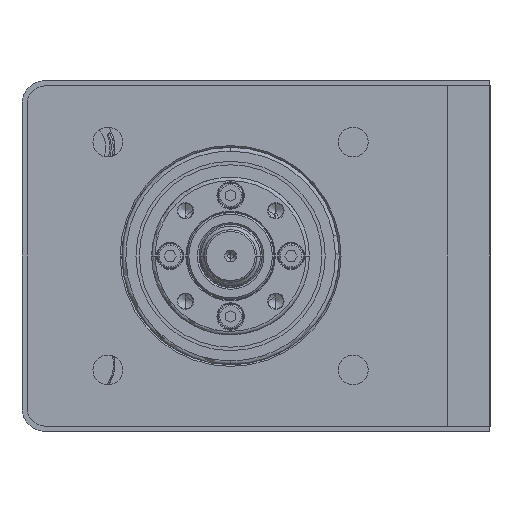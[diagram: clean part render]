
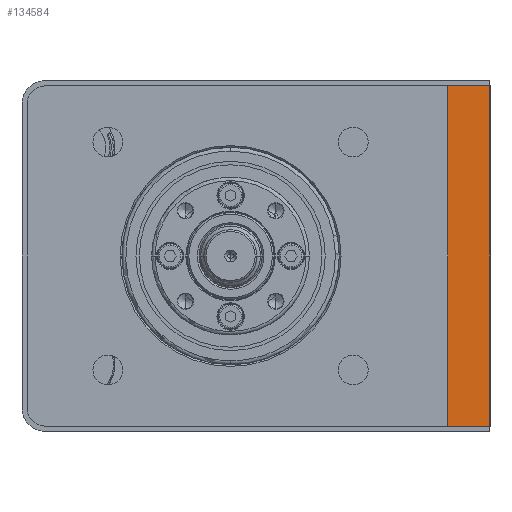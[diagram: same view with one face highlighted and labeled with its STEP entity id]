
A CAD part, left-side view. The second image highlights one B-rep face of the part: STEP entity #134584.
In plain terms, the highlighted planar face has unit normal (-1, 0, 0).
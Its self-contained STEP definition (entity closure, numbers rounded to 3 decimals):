
#27083 = EDGE_CURVE ( 'NONE', #184579, #88685, #107692, .T. ) ;
#29554 = EDGE_CURVE ( 'NONE', #184579, #115915, #208527, .T. ) ;
#37113 = CARTESIAN_POINT ( 'NONE',  ( -168.897, -21.483, 48.5 ) ) ;
#44366 = LINE ( 'NONE', #218797, #64618 ) ;
#51970 = DIRECTION ( 'NONE',  ( 1., 0., 0. ) ) ;
#53503 = CARTESIAN_POINT ( 'NONE',  ( -168.897, -9.483, -48.5 ) ) ;
#58561 = DIRECTION ( 'NONE',  ( 0., 0., -1. ) ) ;
#64618 = VECTOR ( 'NONE', #216421, 1000. ) ;
#83498 = ORIENTED_EDGE ( 'NONE', *, *, #180605, .T. ) ;
#88685 = VERTEX_POINT ( 'NONE', #146423 ) ;
#91485 = DIRECTION ( 'NONE',  ( 0., 0., -1. ) ) ;
#107692 = LINE ( 'NONE', #132068, #206127 ) ;
#115915 = VERTEX_POINT ( 'NONE', #147220 ) ;
#116147 = VECTOR ( 'NONE', #225538, 1000. ) ;
#118911 = EDGE_CURVE ( 'NONE', #226943, #115915, #177011, .T. ) ;
#122949 = ORIENTED_EDGE ( 'NONE', *, *, #118911, .F. ) ;
#127096 = PLANE ( 'NONE',  #238260 ) ;
#132068 = CARTESIAN_POINT ( 'NONE',  ( -168.897, -21.483, -48.5 ) ) ;
#134584 = ADVANCED_FACE ( 'NONE', ( #156386 ), #127096, .F. ) ;
#146423 = CARTESIAN_POINT ( 'NONE',  ( -168.897, -21.483, -48.5 ) ) ;
#147220 = CARTESIAN_POINT ( 'NONE',  ( -168.897, -9.483, 48.5 ) ) ;
#150806 = CARTESIAN_POINT ( 'NONE',  ( -168.897, -9.483, 48.5 ) ) ;
#154984 = ORIENTED_EDGE ( 'NONE', *, *, #27083, .F. ) ;
#156386 = FACE_OUTER_BOUND ( 'NONE', #187900, .T. ) ;
#168614 = ORIENTED_EDGE ( 'NONE', *, *, #29554, .T. ) ;
#170198 = DIRECTION ( 'NONE',  ( 0., 1., 0. ) ) ;
#177011 = LINE ( 'NONE', #223923, #116147 ) ;
#180605 = EDGE_CURVE ( 'NONE', #226943, #88685, #44366, .T. ) ;
#184579 = VERTEX_POINT ( 'NONE', #37113 ) ;
#187900 = EDGE_LOOP ( 'NONE', ( #168614, #122949, #83498, #154984 ) ) ;
#206127 = VECTOR ( 'NONE', #58561, 1000. ) ;
#207662 = CARTESIAN_POINT ( 'NONE',  ( -168.897, -9.483, -48.5 ) ) ;
#208527 = LINE ( 'NONE', #150806, #211304 ) ;
#211304 = VECTOR ( 'NONE', #170198, 1000. ) ;
#216421 = DIRECTION ( 'NONE',  ( 0., -1., 0. ) ) ;
#218797 = CARTESIAN_POINT ( 'NONE',  ( -168.897, -9.483, -48.5 ) ) ;
#223923 = CARTESIAN_POINT ( 'NONE',  ( -168.897, -9.483, 48.5 ) ) ;
#225538 = DIRECTION ( 'NONE',  ( 0., 0., 1. ) ) ;
#226943 = VERTEX_POINT ( 'NONE', #207662 ) ;
#238260 = AXIS2_PLACEMENT_3D ( 'NONE', #53503, #51970, #91485 ) ;
